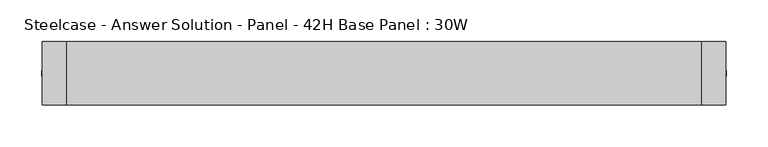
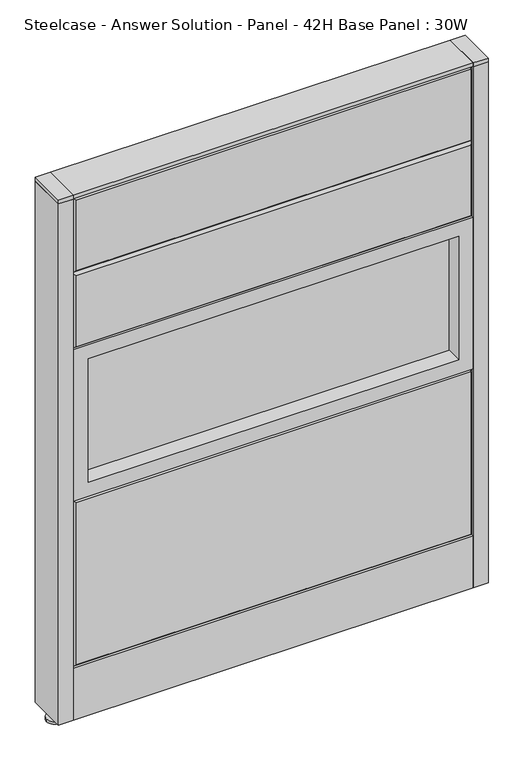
"""IFC4 building model written with IfcOpenShell, lengths in millimetres: furniture geometry, Steelcase - Answer Solution - Panel - 42H Base Panel : 30W."""

from ifc_helpers import new_model, si_unit, point, frame, frame_2d, origin, place, context, project, spatial, polyline, circle_curve, trimmed, segment, composite_curve, outline, extrude, faceted_brep, source, transform, mapped, element, save


def steelcase_answer_solution_panel_42h_base_panel_30w_fe6cc6dd(model_context):
    return source(origin(), model_context, "Body", "SolidModel", [
        extrude(outline(composite_curve([segment(trimmed(circle_curve(frame_2d((395.224, 0.0039657)), 5.08), [point((400.304, 0.0039657))], [point((390.144, 0.0039657))], False, "CARTESIAN"), True, "CONTINUOUS"), segment(trimmed(circle_curve(frame_2d((395.224, 0.0039657)), 5.08), [point((390.144, 0.0039657))], [point((400.304, 0.0039657))], False, "CARTESIAN"), True, "CONTINUOUS")], self_intersect=False)), frame((0.0, 0.0, 5.0799671), z_axis=(0.0, 0.0, 1.0), x_axis=(1.0, 0.0, 0.0)), (0.0, 0.0, 1.0), 10.414),
        extrude(outline(composite_curve([segment(trimmed(circle_curve(frame_2d((395.224, 0.0039657)), 15.24), [point((410.464, 0.0039657))], [point((379.984, 0.0039657))], False, "CARTESIAN"), True, "CONTINUOUS"), segment(trimmed(circle_curve(frame_2d((395.224, 0.0039657)), 15.24), [point((379.984, 0.0039657))], [point((410.464, 0.0039657))], False, "CARTESIAN"), True, "CONTINUOUS")], self_intersect=False)), frame((0.0, 0.0, -3.29e-05), z_axis=(0.0, 0.0, 1.0), x_axis=(1.0, 0.0, 0.0)), (0.0, 0.0, 1.0), 5.08),
        extrude(outline(polyline([(409.575, 38.1039851), (409.575, -38.0960149), (381.0, -38.0960149), (381.0, 38.1039851), (409.575, 38.1039851)])), frame((0.0, 0.0, 1065.8348), z_axis=(0.0, 0.0, 1.0), x_axis=(1.0, 0.0, 0.0)), (0.0, 0.0, 1.0), 7.3151671),
        extrude(outline(polyline([(409.575, 38.1039851), (409.575, -38.0960149), (381.0, -38.0960149), (381.0, 38.1039851), (409.575, 38.1039851)])), frame((0.0, 0.0, 15.4939671), z_axis=(0.0, 0.0, 1.0), x_axis=(1.0, 0.0, 0.0)), (0.0, 0.0, 1.0), 1050.3408329),
        extrude(outline(composite_curve([segment(trimmed(circle_curve(frame_2d((-395.224, 0.0039657)), 5.08), [point((-400.304, 0.0039657))], [point((-390.144, 0.0039657))], False, "CARTESIAN"), True, "CONTINUOUS"), segment(trimmed(circle_curve(frame_2d((-395.224, 0.0039657)), 5.08), [point((-390.144, 0.0039657))], [point((-400.304, 0.0039657))], False, "CARTESIAN"), True, "CONTINUOUS")], self_intersect=False)), frame((0.0, 0.0, 5.0799671), z_axis=(0.0, 0.0, 1.0), x_axis=(1.0, 0.0, 0.0)), (0.0, 0.0, 1.0), 10.414),
        extrude(outline(composite_curve([segment(trimmed(circle_curve(frame_2d((-395.224, 0.0039657)), 15.24), [point((-410.464, 0.0039657))], [point((-379.984, 0.0039657))], False, "CARTESIAN"), True, "CONTINUOUS"), segment(trimmed(circle_curve(frame_2d((-395.224, 0.0039657)), 15.24), [point((-379.984, 0.0039657))], [point((-410.464, 0.0039657))], False, "CARTESIAN"), True, "CONTINUOUS")], self_intersect=False)), frame((0.0, 0.0, -3.29e-05), z_axis=(0.0, 0.0, 1.0), x_axis=(1.0, 0.0, 0.0)), (0.0, 0.0, 1.0), 5.08),
        extrude(outline(polyline([(-409.575, 38.1039851), (-381.0, 38.1039851), (-381.0, -38.0960149), (-409.575, -38.0960149), (-409.575, 38.1039851)])), frame((0.0, 0.0, 1065.8348), z_axis=(0.0, 0.0, 1.0), x_axis=(1.0, 0.0, 0.0)), (0.0, 0.0, 1.0), 7.3151671),
        extrude(outline(polyline([(-409.575, 38.1039851), (-381.0, 38.1039851), (-381.0, -38.0960149), (-409.575, -38.0960149), (-409.575, 38.1039851)])), frame((0.0, 0.0, 15.4939671), z_axis=(0.0, 0.0, 1.0), x_axis=(1.0, 0.0, 0.0)), (0.0, 0.0, 1.0), 1050.3408329),
        extrude(outline(polyline([(-353.06, 6.346049), (353.06, 6.346049), (353.06, -6.353951), (-353.06, -6.353951), (-353.06, 6.346049)])), frame((0.0, 0.0, 485.14), z_axis=(0.0, 0.0, 1.0), x_axis=(1.0, 0.0, 0.0)), (0.0, 0.0, 1.0), 248.92),
        extrude(outline(polyline([(762.0, -381.0), (457.2, -381.0), (457.2, 381.0), (762.0, 381.0), (762.0, -381.0)]), holes=[polyline([(734.06, -353.06), (734.06, 353.06), (485.14, 353.06), (485.14, -353.06), (734.06, -353.06)])]), frame((0.0, -38.103951, 0.0), z_axis=(0.0, 1.0, 0.0), x_axis=(0.0, 0.0, 1.0)), (0.0, 0.0, 1.0), 76.2),
        faceted_brep([(-376.174, 38.1635011, 1061.974), (376.174, 38.1635011, 1061.974), (376.174, 38.1635011, 919.226), (-376.174, 38.1635011, 919.226), (-381.0, 33.3375011, 1066.8), (-381.0, 33.3375011, 914.4), (381.0, 33.3375011, 914.4), (381.0, 33.3375011, 1066.8)], [[[0, 1, 2, 3]], [[4, 5, 6, 7]], [[4, 7, 1, 0]], [[7, 6, 2, 1]], [[6, 5, 3, 2]], [[5, 4, 0, 3]]]),
        faceted_brep([(-376.174, 38.1635011, 909.574), (376.174, 38.1635011, 909.574), (376.174, 38.1635011, 766.826), (-376.174, 38.1635011, 766.826), (-381.0, 33.3375011, 914.4), (-381.0, 33.3375011, 762.0), (381.0, 33.3375011, 762.0), (381.0, 33.3375011, 914.4)], [[[0, 1, 2, 3]], [[4, 5, 6, 7]], [[4, 7, 1, 0]], [[7, 6, 2, 1]], [[6, 5, 3, 2]], [[5, 4, 0, 3]]]),
        faceted_brep([(-376.174, 38.1635011, 452.374), (376.174, 38.1635011, 452.374), (376.174, 38.1635011, 125.476), (-376.174, 38.1635011, 125.476), (-381.0, 33.3375011, 457.2), (-381.0, 33.3375011, 120.65), (381.0, 33.3375011, 120.65), (381.0, 33.3375011, 457.2)], [[[0, 1, 2, 3]], [[4, 5, 6, 7]], [[4, 7, 1, 0]], [[7, 6, 2, 1]], [[6, 5, 3, 2]], [[5, 4, 0, 3]]]),
        extrude(outline(polyline([(353.06, -6.346049), (-353.06, -6.346049), (-353.06, 6.353951), (353.06, 6.353951), (353.06, -6.346049)])), frame((0.0, 0.0, 485.14), z_axis=(0.0, 0.0, 1.0), x_axis=(1.0, 0.0, 0.0)), (0.0, 0.0, 1.0), 248.92),
        extrude(outline(polyline([(762.0, 381.0), (762.0, -381.0), (457.2, -381.0), (457.2, 381.0), (762.0, 381.0)]), holes=[polyline([(734.06, 353.06), (485.14, 353.06), (485.14, -353.06), (734.06, -353.06), (734.06, 353.06)])]), frame((0.0, -38.096049, 0.0), z_axis=(0.0, 1.0, 0.0), x_axis=(0.0, 0.0, 1.0)), (0.0, 0.0, 1.0), 76.2),
        faceted_brep([(376.174, -38.1635011, 1061.974), (-376.174, -38.1635011, 1061.974), (-376.174, -38.1635011, 919.226), (376.174, -38.1635011, 919.226), (381.0, -33.3375011, 1066.8), (381.0, -33.3375011, 914.4), (-381.0, -33.3375011, 914.4), (-381.0, -33.3375011, 1066.8)], [[[0, 1, 2, 3]], [[4, 5, 6, 7]], [[4, 7, 1, 0]], [[7, 6, 2, 1]], [[6, 5, 3, 2]], [[5, 4, 0, 3]]]),
        faceted_brep([(376.174, -38.1635011, 909.574), (-376.174, -38.1635011, 909.574), (-376.174, -38.1635011, 766.826), (376.174, -38.1635011, 766.826), (381.0, -33.3375011, 914.4), (381.0, -33.3375011, 762.0), (-381.0, -33.3375011, 762.0), (-381.0, -33.3375011, 914.4)], [[[0, 1, 2, 3]], [[4, 5, 6, 7]], [[4, 7, 1, 0]], [[7, 6, 2, 1]], [[6, 5, 3, 2]], [[5, 4, 0, 3]]]),
        faceted_brep([(376.174, -38.1635011, 452.374), (-376.174, -38.1635011, 452.374), (-376.174, -38.1635011, 125.476), (376.174, -38.1635011, 125.476), (381.0, -33.3375011, 457.2), (381.0, -33.3375011, 120.65), (-381.0, -33.3375011, 120.65), (-381.0, -33.3375011, 457.2)], [[[0, 1, 2, 3]], [[4, 5, 6, 7]], [[4, 7, 1, 0]], [[7, 6, 2, 1]], [[6, 5, 3, 2]], [[5, 4, 0, 3]]]),
        extrude(outline(polyline([(381.0, 38.1000194), (381.0, -38.1000194), (-381.0, -38.1000194), (-381.0, 38.1000194), (381.0, 38.1000194)])), frame((0.0, 0.0, 1066.8), z_axis=(0.0, 0.0, 1.0), x_axis=(1.0, 0.0, 0.0)), (0.0, 0.0, 1.0), 6.35),
        extrude(outline(polyline([(25.4000011, 119.8575157), (25.4000011, 120.65), (38.1000194, 120.65), (38.1000194, 15.494), (37.3075215, 15.494), (37.3075215, 119.8575157), (25.4000011, 119.8575157)])), frame((-381.0, 0.0, 0.0), z_axis=(1.0, 0.0, 0.0), x_axis=(0.0, 1.0, 0.0)), (0.0, 0.0, 1.0), 762.0),
        extrude(outline(polyline([(-25.4000011, 119.8575157), (-37.3075215, 119.8575157), (-37.3075215, 15.494), (-38.1000194, 15.494), (-38.1000194, 120.65), (-25.4000011, 120.65), (-25.4000011, 119.8575157)])), frame((-381.0, 0.0, 0.0), z_axis=(1.0, 0.0, 0.0), x_axis=(0.0, 1.0, 0.0)), (0.0, 0.0, 1.0), 762.0),
    ])


if __name__ == "__main__":
    model = new_model("IFC4")
    model_context = context("Model", 3, world=origin())
    ifc_project = project(units=[si_unit("LENGTHUNIT", "METRE", prefix="MILLI")], contexts=[model_context])
    site = spatial("IfcSite", under=ifc_project)
    building = spatial("IfcBuilding", under=site)
    placement = place(None, origin())
    steelcase_answer_solution_panel_42h_base_panel_30w_shape = steelcase_answer_solution_panel_42h_base_panel_30w_fe6cc6dd(model_context)
    element("IfcFurniture", 1, ObjectType="Steelcase - Answer Solution - Panel - 42H Base Panel : 30W", at=placement, inside=building, context=model_context, shape_type="MappedRepresentation", body=[
        mapped(steelcase_answer_solution_panel_42h_base_panel_30w_shape, transform((0.0, 0.0, 0.0), x_axis=(1.0, 0.0, 0.0), y_axis=(0.0, 1.0, 0.0), z_axis=(0.0, 0.0, 1.0))),
    ])
    save(model, "model.ifc")
